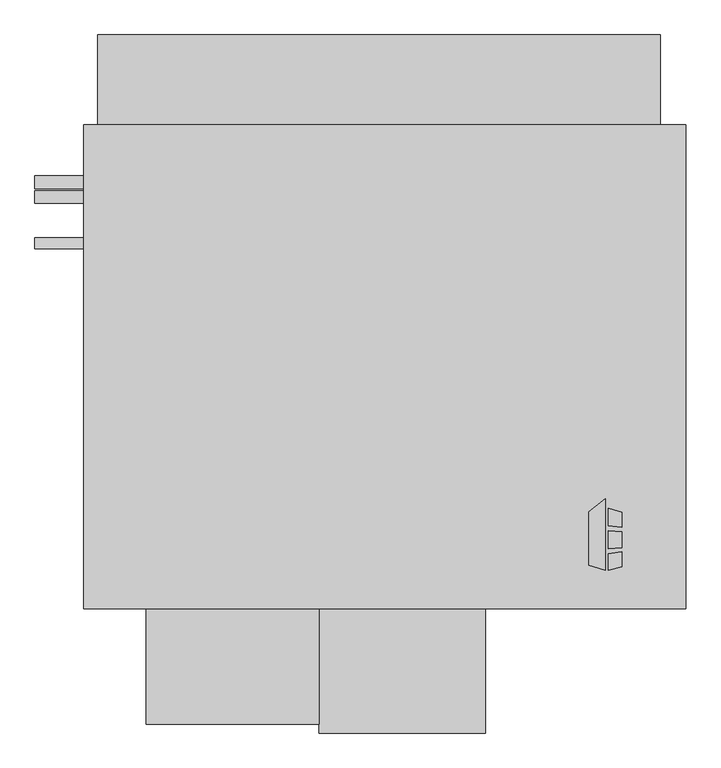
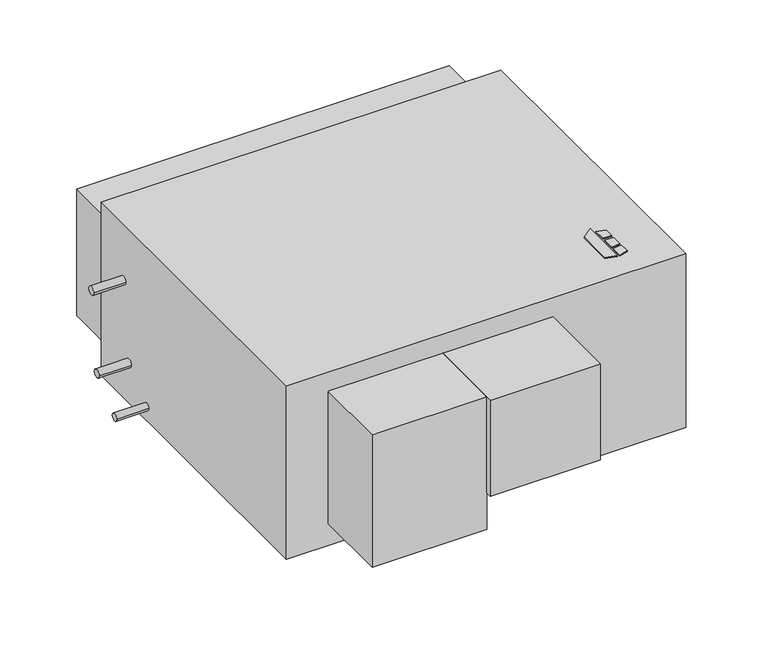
"""IFC4 building model written with IfcOpenShell, lengths in millimetres: proxy geometry, Horizontal_Direct_Drive_Blower_Coil_Unit_-_HDY_-_IEC_-_2-Pipe_Cool-EHeat_LH_2022 : Size 16 - 460v/60Hz/3Ph - 8 Row 16.0kW LH."""

from ifc_helpers import new_model, si_unit, point, frame, frame_2d, origin, origin_with_axes, place, context, project, spatial, polyline, circle_curve, trimmed, segment, composite_curve, outline, extrude, source, transform, mapped, element, save


def mechanical_equipment_8dee2617(model_context):
    return source(origin(), model_context, "Body", "SweptSolid", [
        extrude(outline(polyline([(-65.3980239, -274.0078476), (-32.8397272, -248.5705184), (-32.8397272, -390.525), (-65.3980239, -380.3054201), (-65.3980239, -274.0078476)])), origin_with_axes(), (0.0, 0.0, 1.0), 3.175),
        extrude(outline(polyline([(-26.0813942, -301.879852), (-26.0813942, -267.3999379), (0.0, -275.5865115), (0.0, -305.0822446), (-26.0813942, -301.879852)])), origin_with_axes(), (0.0, 0.0, 1.0), 3.175),
        extrude(outline(polyline([(0.0, -383.5365115), (-26.0813942, -390.525), (-26.0813942, -357.3036996), (0.0, -353.7618564), (0.0, -383.5365115)])), origin_with_axes(), (0.0, 0.0, 1.0), 3.175),
        extrude(outline(polyline([(0.0, -314.1638277), (0.0, -345.413983), (-26.0813942, -348.155248), (-26.0813942, -312.2975378), (0.0, -314.1638277)])), origin_with_axes(), (0.0, 0.0, 1.0), 3.175),
        extrude(outline(composite_curve([segment(trimmed(circle_curve(frame_2d((377.825, -177.8)), 12.7), [point((365.125, -177.8))], [point((390.525, -177.8))], False, "CARTESIAN"), True, "CONTINUOUS"), segment(trimmed(circle_curve(frame_2d((377.825, -177.8)), 12.7), [point((390.525, -177.8))], [point((365.125, -177.8))], False, "CARTESIAN"), True, "CONTINUOUS")], self_intersect=False)), frame((-1163.1025559, 0.0, 0.0), z_axis=(1.0, 0.0, 0.0), x_axis=(0.0, 1.0, 0.0)), (0.0, 0.0, 1.0), 96.3025559),
        extrude(outline(composite_curve([segment(trimmed(circle_curve(frame_2d((348.9715397, -422.2558174)), 12.7), [point((336.2715397, -422.2558174))], [point((361.6715397, -422.2558174))], False, "CARTESIAN"), True, "CONTINUOUS"), segment(trimmed(circle_curve(frame_2d((348.9715397, -422.2558174)), 12.7), [point((361.6715397, -422.2558174))], [point((336.2715397, -422.2558174))], False, "CARTESIAN"), True, "CONTINUOUS")], self_intersect=False)), frame((-1163.1025559, 0.0, 0.0), z_axis=(1.0, 0.0, 0.0), x_axis=(0.0, 1.0, 0.0)), (0.0, 0.0, 1.0), 96.3025559),
        extrude(outline(composite_curve([segment(trimmed(circle_curve(frame_2d((257.175, -504.8058174)), 11.1125), [point((246.0625, -504.8058174))], [point((268.2875, -504.8058174))], False, "CARTESIAN"), True, "CONTINUOUS"), segment(trimmed(circle_curve(frame_2d((257.175, -504.8058174)), 11.1125), [point((268.2875, -504.8058174))], [point((246.0625, -504.8058174))], False, "CARTESIAN"), True, "CONTINUOUS")], self_intersect=False)), frame((-1163.1025559, 0.0, 0.0), z_axis=(1.0, 0.0, 0.0), x_axis=(0.0, 1.0, 0.0)), (0.0, 0.0, 1.0), 96.3025559),
        extrude(outline(polyline([(127.0, 492.125), (127.0, -466.725), (-1066.8, -466.725), (-1066.8, 492.125), (127.0, 492.125)])), frame((0.0, 0.0, -549.2558174), z_axis=(0.0, 0.0, 1.0), x_axis=(1.0, 0.0, 0.0)), (0.0, 0.0, 1.0), 549.2558174),
        extrude(outline(polyline([(-600.075, -695.325), (-942.975, -695.325), (-942.975, -466.725), (-600.075, -466.725), (-600.075, -695.325)])), frame((0.0, 0.0, -479.4058174), z_axis=(0.0, 0.0, 1.0), x_axis=(1.0, 0.0, 0.0)), (0.0, 0.0, 1.0), 419.1),
        extrude(outline(polyline([(-1038.225, 669.925), (76.2, 669.925), (76.2, 492.125), (-1038.225, 492.125), (-1038.225, 669.925)])), frame((0.0, 0.0, -476.2308174), z_axis=(0.0, 0.0, 1.0), x_axis=(1.0, 0.0, 0.0)), (0.0, 0.0, 1.0), 400.05),
        extrude(outline(polyline([(-269.875, -712.7875), (-600.075, -712.7875), (-600.075, -466.725), (-269.875, -466.725), (-269.875, -712.7875)])), frame((0.0, 0.0, -365.1058174), z_axis=(0.0, 0.0, 1.0), x_axis=(1.0, 0.0, 0.0)), (0.0, 0.0, 1.0), 304.8),
    ])


if __name__ == "__main__":
    model = new_model("IFC4")
    model_context = context("Model", 3, world=origin())
    ifc_project = project(units=[si_unit("LENGTHUNIT", "METRE", prefix="MILLI")], contexts=[model_context])
    site = spatial("IfcSite", under=ifc_project)
    building = spatial("IfcBuilding", under=site)
    placement = place(None, origin())
    mechanical_equipment_shape = mechanical_equipment_8dee2617(model_context)
    element("IfcBuildingElementProxy", 1, Name="Horizontal_Direct_Drive_Blower_Coil_Unit_-_HDY_-_IEC_-_2-Pipe_Cool-EHeat_LH_2022 : Size 16 - 460v/60Hz/3Ph - 8 Row 16.0kW LH", ObjectType="Horizontal_Direct_Drive_Blower_Coil_Unit_-_HDY_-_IEC_-_2-Pipe_Cool-EHeat_LH_2022 : Size 16 - 460v/60Hz/3Ph - 8 Row 16.0kW LH", at=placement, inside=building, context=model_context, shape_type="MappedRepresentation", body=[
        mapped(mechanical_equipment_shape, transform((0.0, 0.0, 0.0), x_axis=(1.0, 0.0, 0.0), y_axis=(0.0, 1.0, 0.0), z_axis=(0.0, 0.0, 1.0))),
    ])
    save(model, "model.ifc")
